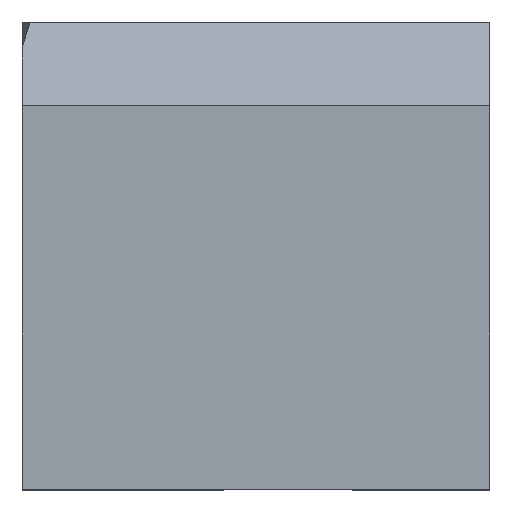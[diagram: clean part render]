
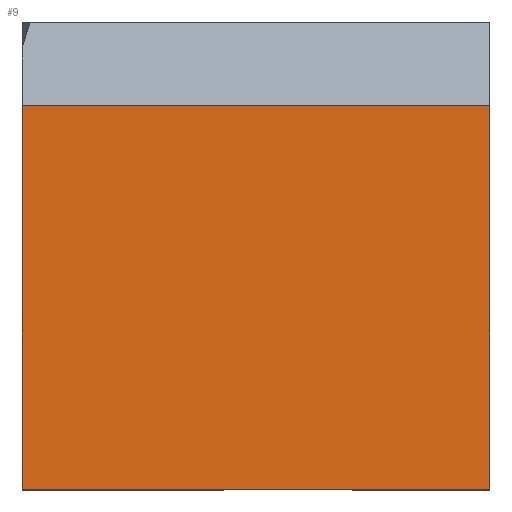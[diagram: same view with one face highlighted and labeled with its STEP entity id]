
A CAD part, top view. The second image highlights one B-rep face of the part: STEP entity #9.
In plain terms, the highlighted planar face has unit normal (0, 0, 1).
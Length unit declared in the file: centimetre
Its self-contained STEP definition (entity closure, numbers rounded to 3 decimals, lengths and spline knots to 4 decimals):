
#9 = ADVANCED_FACE ( 'NONE', ( #54 ), #433, .T. ) ;
#54 = FACE_OUTER_BOUND ( 'NONE', #344, .T. ) ;
#67 = DIRECTION ( 'NONE',  ( 1., 0., 0. ) ) ;
#73 = LINE ( 'NONE', #212, #518 ) ;
#77 = VECTOR ( 'NONE', #67, 100. ) ;
#87 = EDGE_CURVE ( 'NONE', #421, #169, #73, .T. ) ;
#93 = DIRECTION ( 'NONE',  ( 0., -1., 0. ) ) ;
#105 = LINE ( 'NONE', #494, #77 ) ;
#116 = DIRECTION ( 'NONE',  ( -1., 0., 0. ) ) ;
#128 = EDGE_CURVE ( 'NONE', #264, #204, #564, .T. ) ;
#134 = ORIENTED_EDGE ( 'NONE', *, *, #128, .T. ) ;
#140 = CARTESIAN_POINT ( 'NONE',  ( 1000., 0., 1000. ) ) ;
#169 = VERTEX_POINT ( 'NONE', #463 ) ;
#203 = CARTESIAN_POINT ( 'NONE',  ( 0., 821.1086, 1000. ) ) ;
#204 = VERTEX_POINT ( 'NONE', #602 ) ;
#212 = CARTESIAN_POINT ( 'NONE',  ( 0., 1000., 1000. ) ) ;
#216 = ORIENTED_EDGE ( 'NONE', *, *, #520, .T. ) ;
#244 = DIRECTION ( 'NONE',  ( 1., 0., 0. ) ) ;
#257 = CARTESIAN_POINT ( 'NONE',  ( 0., 821.1086, 1000. ) ) ;
#259 = DIRECTION ( 'NONE',  ( 0., 1., 0. ) ) ;
#264 = VERTEX_POINT ( 'NONE', #140 ) ;
#293 = DIRECTION ( 'NONE',  ( 0., 0., 1. ) ) ;
#344 = EDGE_LOOP ( 'NONE', ( #134, #584, #571, #216 ) ) ;
#397 = EDGE_CURVE ( 'NONE', #204, #421, #399, .T. ) ;
#399 = LINE ( 'NONE', #203, #594 ) ;
#421 = VERTEX_POINT ( 'NONE', #257 ) ;
#433 = PLANE ( 'NONE',  #480 ) ;
#447 = VECTOR ( 'NONE', #259, 100. ) ;
#463 = CARTESIAN_POINT ( 'NONE',  ( 0., 0., 1000. ) ) ;
#480 = AXIS2_PLACEMENT_3D ( 'NONE', #597, #293, #244 ) ;
#494 = CARTESIAN_POINT ( 'NONE',  ( 0., 0., 1000. ) ) ;
#503 = CARTESIAN_POINT ( 'NONE',  ( 1000., 1000., 1000. ) ) ;
#518 = VECTOR ( 'NONE', #93, 100. ) ;
#520 = EDGE_CURVE ( 'NONE', #169, #264, #105, .T. ) ;
#564 = LINE ( 'NONE', #503, #447 ) ;
#571 = ORIENTED_EDGE ( 'NONE', *, *, #87, .T. ) ;
#584 = ORIENTED_EDGE ( 'NONE', *, *, #397, .T. ) ;
#594 = VECTOR ( 'NONE', #116, 100. ) ;
#597 = CARTESIAN_POINT ( 'NONE',  ( 0., 0., 1000. ) ) ;
#602 = CARTESIAN_POINT ( 'NONE',  ( 1000., 821.1086, 1000. ) ) ;
